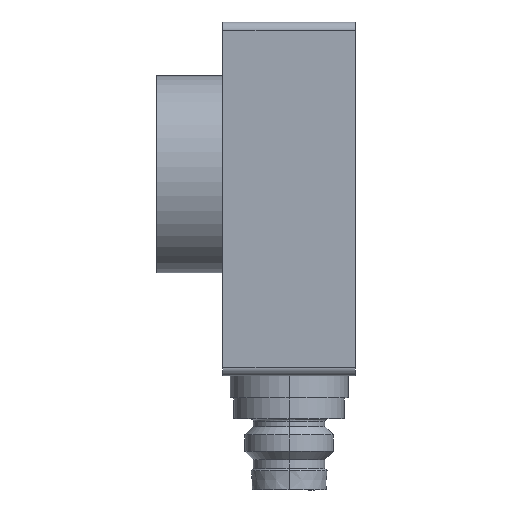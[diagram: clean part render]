
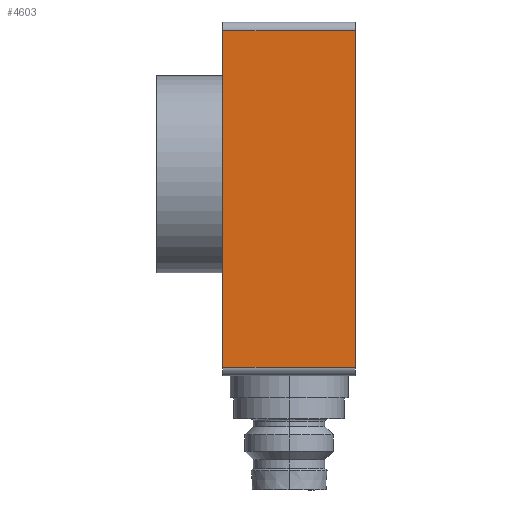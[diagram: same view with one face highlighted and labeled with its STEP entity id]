
A CAD part, left-side view. The second image highlights one B-rep face of the part: STEP entity #4603.
In plain terms, the highlighted planar face has unit normal (-1, 0, 0).
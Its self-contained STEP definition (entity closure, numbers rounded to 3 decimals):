
#4440=CARTESIAN_POINT('',(-10.7,-6.,31.3));
#4441=VERTEX_POINT('',#4440);
#4449=CARTESIAN_POINT('',(-10.7,-6.,0.8));
#4450=VERTEX_POINT('',#4449);
#4451=CARTESIAN_POINT('',(-10.7,-6.,0.8));
#4452=DIRECTION('',(0.0,0.0,1.0));
#4453=VECTOR('',#4452,30.5);
#4454=LINE('',#4451,#4453);
#4455=EDGE_CURVE('',#4450,#4441,#4454,.T.);
#4560=CARTESIAN_POINT('',(-10.7,6.,31.3));
#4561=VERTEX_POINT('',#4560);
#4569=CARTESIAN_POINT('',(-10.7,-6.,31.3));
#4570=DIRECTION('',(0.0,1.0,0.0));
#4571=VECTOR('',#4570,12.);
#4572=LINE('',#4569,#4571);
#4573=EDGE_CURVE('',#4441,#4561,#4572,.T.);
#4580=CARTESIAN_POINT('',(-10.7,0.0,31.3));
#4581=DIRECTION('',(-1.0,0.0,0.0));
#4582=DIRECTION('',(0.0,0.0,1.0));
#4583=AXIS2_PLACEMENT_3D('',#4580,#4581,#4582);
#4584=PLANE('',#4583);
#4585=CARTESIAN_POINT('',(-10.7,6.,0.8));
#4586=VERTEX_POINT('',#4585);
#4587=CARTESIAN_POINT('',(-10.7,6.,31.3));
#4588=DIRECTION('',(0.0,0.0,-1.0));
#4589=VECTOR('',#4588,30.5);
#4590=LINE('',#4587,#4589);
#4591=EDGE_CURVE('',#4561,#4586,#4590,.T.);
#4592=ORIENTED_EDGE('',*,*,#4591,.T.);
#4593=CARTESIAN_POINT('',(-10.7,-6.,0.8));
#4594=DIRECTION('',(0.0,1.0,0.0));
#4595=VECTOR('',#4594,12.);
#4596=LINE('',#4593,#4595);
#4597=EDGE_CURVE('',#4450,#4586,#4596,.T.);
#4598=ORIENTED_EDGE('',*,*,#4597,.F.);
#4599=ORIENTED_EDGE('',*,*,#4455,.T.);
#4600=ORIENTED_EDGE('',*,*,#4573,.T.);
#4601=EDGE_LOOP('',(#4592,#4598,#4599,#4600));
#4602=FACE_OUTER_BOUND('',#4601,.T.);
#4603=ADVANCED_FACE('',(#4602),#4584,.T.);
